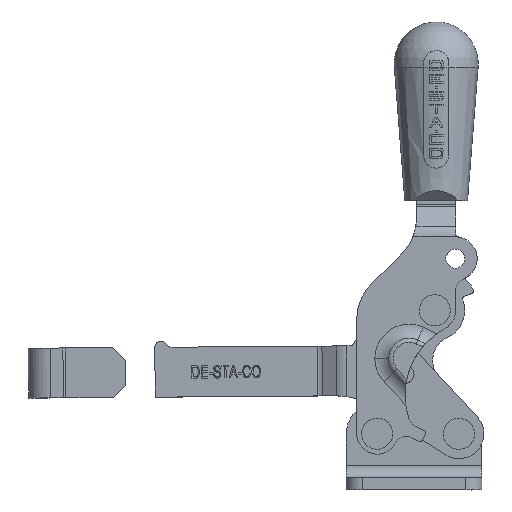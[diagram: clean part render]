
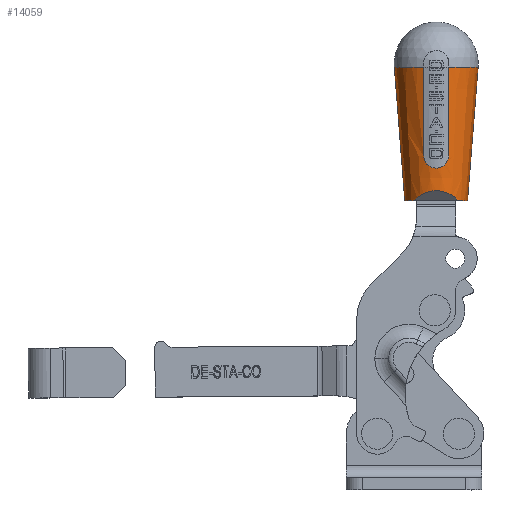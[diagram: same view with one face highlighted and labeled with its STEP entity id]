
A CAD part, top view. The second image highlights one B-rep face of the part: STEP entity #14059.
In plain terms, the highlighted conical face has half-angle 4.49 degrees and reference radius 9.334 mm.
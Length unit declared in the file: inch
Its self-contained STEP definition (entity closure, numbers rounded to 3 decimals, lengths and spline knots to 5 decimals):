
#7185=DIRECTION('',(0.,0.997,-0.078));
#7186=VECTOR('',#7185,1.34121);
#7187=CARTESIAN_POINT('',(0.,0.,-0.31496));
#7188=LINE('',#7187,#7186);
#7212=DIRECTION('',(0.,-0.997,-0.078));
#7213=VECTOR('',#7212,1.34121);
#7214=CARTESIAN_POINT('',(0.,1.3371,
0.41997));
#7215=LINE('',#7214,#7213);
#7249=CARTESIAN_POINT('',(0.22427,0.,
-0.22115));
#7250=CARTESIAN_POINT('',(0.23061,0.00634,
-0.21542));
#7251=CARTESIAN_POINT('',(0.24255,0.01829,
-0.20366));
#7252=CARTESIAN_POINT('',(0.25839,0.03413,
-0.18525));
#7253=CARTESIAN_POINT('',(0.27219,0.04793,
-0.16635));
#7254=CARTESIAN_POINT('',(0.28414,0.05987,
-0.14702));
#7255=CARTESIAN_POINT('',(0.29425,0.06998,
-0.12754));
#7256=CARTESIAN_POINT('',(0.30269,0.07842,
-0.10792));
#7257=CARTESIAN_POINT('',(0.30954,0.08528,
-0.08825));
#7258=CARTESIAN_POINT('',(0.31489,0.09063,
-0.06864));
#7259=CARTESIAN_POINT('',(0.31886,0.09459,
-0.04897));
#7260=CARTESIAN_POINT('',(0.32145,0.09718,
-0.02941));
#7261=CARTESIAN_POINT('',(0.32274,0.09848,
-0.00982));
#7262=CARTESIAN_POINT('',(0.32274,0.09848,
0.00979));
#7263=CARTESIAN_POINT('',(0.32146,0.09719,
0.02932));
#7264=CARTESIAN_POINT('',(0.31885,0.09459,
0.04898));
#7265=CARTESIAN_POINT('',(0.3149,0.09064,
0.06861));
#7266=CARTESIAN_POINT('',(0.30955,0.08528,
0.08824));
#7267=CARTESIAN_POINT('',(0.30267,0.07841,
0.10795));
#7268=CARTESIAN_POINT('',(0.29425,0.06998,
0.12753));
#7269=CARTESIAN_POINT('',(0.28412,0.05985,
0.14706));
#7270=CARTESIAN_POINT('',(0.27218,0.04791,
0.16638));
#7271=CARTESIAN_POINT('',(0.25839,0.03412,
0.18525));
#7272=CARTESIAN_POINT('',(0.24255,0.01828,
0.20367));
#7273=CARTESIAN_POINT('',(0.2306,0.00634,
0.21543));
#7274=CARTESIAN_POINT('',(0.22427,0.,
0.22115));
#7279=CARTESIAN_POINT('',(0.40062,1.3371,
0.12598));
#7280=CARTESIAN_POINT('',(0.39173,1.229,
0.12598));
#7281=CARTESIAN_POINT('',(0.37441,1.01934,
0.12598));
#7282=CARTESIAN_POINT('',(0.35008,0.72668,
0.12598));
#7283=CARTESIAN_POINT('',(0.33457,0.54157,
0.12598));
#7284=CARTESIAN_POINT('',(0.32702,0.45189,
0.12598));
#7289=CARTESIAN_POINT('',(0.32702,0.45189,
-0.12598));
#7290=CARTESIAN_POINT('',(0.3345,0.54074,
-0.12598));
#7291=CARTESIAN_POINT('',(0.34992,0.72481,
-0.12598));
#7292=CARTESIAN_POINT('',(0.37465,1.02224,
-0.12598));
#7293=CARTESIAN_POINT('',(0.39183,1.23027,
-0.12598));
#7294=CARTESIAN_POINT('',(0.40062,1.3371,
-0.12598));
#7307=CARTESIAN_POINT('',(0.,0.,0.));
#7308=DIRECTION('',(0.,-1.,0.));
#7309=DIRECTION('',(0.712,0.,0.702));
#7310=AXIS2_PLACEMENT_3D('',#7307,#7308,#7309);
#7315=CARTESIAN_POINT('',(0.,0.,0.));
#7316=DIRECTION('',(0.,-1.,0.));
#7317=DIRECTION('',(0.,0.,-1.));
#7318=AXIS2_PLACEMENT_3D('',#7315,#7316,#7317);
#7763=CARTESIAN_POINT('',(0.,1.3371,0.));
#7764=DIRECTION('',(0.,-1.,0.));
#7765=DIRECTION('',(0.,0.,-1.));
#7766=AXIS2_PLACEMENT_3D('',#7763,#7764,#7765);
#7787=CARTESIAN_POINT('',(0.,1.3371,0.));
#7788=DIRECTION('',(0.,-1.,0.));
#7789=DIRECTION('',(0.954,0.,0.3));
#7790=AXIS2_PLACEMENT_3D('',#7787,#7788,#7789);
#10485=CARTESIAN_POINT('',(0.32702,0.45189,
0.12598));
#10486=CARTESIAN_POINT('',(0.32666,0.44763,
0.12598));
#10487=CARTESIAN_POINT('',(0.32611,0.43907,
0.12555));
#10488=CARTESIAN_POINT('',(0.32579,0.4262,
0.12356));
#10489=CARTESIAN_POINT('',(0.32597,0.41356,
0.12026));
#10490=CARTESIAN_POINT('',(0.32662,0.40115,
0.11562));
#10491=CARTESIAN_POINT('',(0.32767,0.38921,
0.10969));
#10492=CARTESIAN_POINT('',(0.32908,0.37781,
0.10247));
#10493=CARTESIAN_POINT('',(0.33072,0.36718,
0.09407));
#10494=CARTESIAN_POINT('',(0.33251,0.35743,
0.08452));
#10495=CARTESIAN_POINT('',(0.33431,0.34877,
0.07403));
#10496=CARTESIAN_POINT('',(0.33603,0.3413,
0.0627));
#10497=CARTESIAN_POINT('',(0.33755,0.33517,
0.0508));
#10498=CARTESIAN_POINT('',(0.33881,0.33037,
0.03842));
#10499=CARTESIAN_POINT('',(0.33974,0.32697,
0.0258));
#10500=CARTESIAN_POINT('',(0.34031,0.32492,
0.01292));
#10501=CARTESIAN_POINT('',(0.34051,0.32424,
-0.00001));
#10502=CARTESIAN_POINT('',(0.34031,0.32492,
-0.01293));
#10503=CARTESIAN_POINT('',(0.33974,0.32697,
-0.02582));
#10504=CARTESIAN_POINT('',(0.33881,0.33038,
-0.03844));
#10505=CARTESIAN_POINT('',(0.33755,0.33518,
-0.05084));
#10506=CARTESIAN_POINT('',(0.33602,0.34133,
-0.06275));
#10507=CARTESIAN_POINT('',(0.33431,0.34879,
-0.07406));
#10508=CARTESIAN_POINT('',(0.3325,0.35747,
-0.08457));
#10509=CARTESIAN_POINT('',(0.33071,0.36721,
-0.09409));
#10510=CARTESIAN_POINT('',(0.32907,0.37785,
-0.1025));
#10511=CARTESIAN_POINT('',(0.32767,0.38925,
-0.10971));
#10512=CARTESIAN_POINT('',(0.32661,0.40119,
-0.11563));
#10513=CARTESIAN_POINT('',(0.32597,0.41359,
-0.12027));
#10514=CARTESIAN_POINT('',(0.32579,0.42622,
-0.12356));
#10515=CARTESIAN_POINT('',(0.32611,0.43907,
-0.12555));
#10516=CARTESIAN_POINT('',(0.32666,0.44763,
-0.12598));
#10517=CARTESIAN_POINT('',(0.32702,0.45189,
-0.12598));
#13191=CARTESIAN_POINT('',(0.,1.3371,
0.41997));
#13193=VERTEX_POINT('',#13191);
#13200=CARTESIAN_POINT('',(0.,1.3371,-0.41997));
#13201=VERTEX_POINT('',#13200);
#13204=CARTESIAN_POINT('',(0.,0.,-0.31496));
#13205=CARTESIAN_POINT('',(0.22427,0.,-0.22115));
#13206=VERTEX_POINT('',#13204);
#13207=VERTEX_POINT('',#13205);
#13208=VERTEX_POINT('',#7274);
#13209=CARTESIAN_POINT('',(0.,0.,0.31496));
#13210=VERTEX_POINT('',#13209);
#13211=CARTESIAN_POINT('',(0.40062,1.3371,
0.12598));
#13212=VERTEX_POINT('',#13211);
#13213=VERTEX_POINT('',#7284);
#13214=VERTEX_POINT('',#10517);
#13215=VERTEX_POINT('',#7294);
#14034=CARTESIAN_POINT('',(0.,0.66855,0.));
#14035=DIRECTION('',(0.,1.,0.));
#14036=DIRECTION('',(0.,0.,1.));
#14037=AXIS2_PLACEMENT_3D('',#14034,#14035,#14036);
#14038=CONICAL_SURFACE('',#14037,0.36746,4.49);
#14040=ORIENTED_EDGE('',*,*,#14039,.T.);
#14042=ORIENTED_EDGE('',*,*,#14041,.T.);
#14044=ORIENTED_EDGE('',*,*,#14043,.T.);
#14045=ORIENTED_EDGE('',*,*,#14023,.F.);
#14047=ORIENTED_EDGE('',*,*,#14046,.F.);
#14049=ORIENTED_EDGE('',*,*,#14048,.T.);
#14051=ORIENTED_EDGE('',*,*,#14050,.T.);
#14053=ORIENTED_EDGE('',*,*,#14052,.T.);
#14055=ORIENTED_EDGE('',*,*,#14054,.F.);
#14056=ORIENTED_EDGE('',*,*,#14011,.F.);
#14057=EDGE_LOOP('',(#14040,#14042,#14044,#14045,#14047,#14049,#14051,#14053,
#14055,#14056));
#14058=FACE_OUTER_BOUND('',#14057,.F.);
#7275=B_SPLINE_CURVE_WITH_KNOTS('',3,(#7249,#7250,#7251,#7252,#7253,#7254,#7255,
#7256,#7257,#7258,#7259,#7260,#7261,#7262,#7263,#7264,#7265,#7266,#7267,#7268,
#7269,#7270,#7271,#7272,#7273,#7274),.UNSPECIFIED.,.F.,.F.,(4,1,1,1,1,1,1,1,1,1,
1,1,1,1,1,1,1,1,1,1,1,1,1,4),(0.,0.04348,0.08696,
0.13043,0.17391,0.21739,0.26087,
0.30435,0.34783,0.3913,0.43478,
0.47826,0.52174,0.56522,0.6087,
0.65217,0.69565,0.73913,0.78261,
0.82609,0.86957,0.91304,0.95652,1.),
.UNSPECIFIED.);
#7285=B_SPLINE_CURVE_WITH_KNOTS('',3,(#7279,#7280,#7281,#7282,#7283,#7284),
.UNSPECIFIED.,.F.,.F.,(4,1,1,4),(0.,0.33333,0.66667,1.),
.UNSPECIFIED.);
#7295=B_SPLINE_CURVE_WITH_KNOTS('',3,(#7289,#7290,#7291,#7292,#7293,#7294),
.UNSPECIFIED.,.F.,.F.,(4,1,1,4),(0.,0.33333,0.66667,1.),
.UNSPECIFIED.);
#7311=CIRCLE('',#7310,0.31496);
#7319=CIRCLE('',#7318,0.31496);
#7767=CIRCLE('',#7766,0.41997);
#7791=CIRCLE('',#7790,0.41997);
#10518=B_SPLINE_CURVE_WITH_KNOTS('',3,(#10485,#10486,#10487,#10488,#10489,
#10490,#10491,#10492,#10493,#10494,#10495,#10496,#10497,#10498,#10499,#10500,
#10501,#10502,#10503,#10504,#10505,#10506,#10507,#10508,#10509,#10510,#10511,
#10512,#10513,#10514,#10515,#10516,#10517),.UNSPECIFIED.,.F.,.F.,(4,1,1,1,1,1,1,
1,1,1,1,1,1,1,1,1,1,1,1,1,1,1,1,1,1,1,1,1,1,1,4),(0.,0.03333,
0.06667,0.1,0.13333,0.16667,0.2,
0.23333,0.26667,0.3,0.33333,0.36667,
0.4,0.43333,0.46667,0.5,0.53333,
0.56667,0.6,0.63333,0.66667,0.7,
0.73333,0.76667,0.8,0.83333,0.86667,
0.9,0.93333,0.96667,1.),.UNSPECIFIED.);
#14011=EDGE_CURVE('',#13206,#13201,#7188,.T.);
#14023=EDGE_CURVE('',#13193,#13210,#7215,.T.);
#14039=EDGE_CURVE('',#13206,#13207,#7319,.T.);
#14041=EDGE_CURVE('',#13207,#13208,#7275,.T.);
#14043=EDGE_CURVE('',#13208,#13210,#7311,.T.);
#14046=EDGE_CURVE('',#13212,#13193,#7791,.T.);
#14048=EDGE_CURVE('',#13212,#13213,#7285,.T.);
#14050=EDGE_CURVE('',#13213,#13214,#10518,.T.);
#14052=EDGE_CURVE('',#13214,#13215,#7295,.T.);
#14054=EDGE_CURVE('',#13201,#13215,#7767,.T.);
#14059=ADVANCED_FACE('',(#14058),#14038,.T.);
